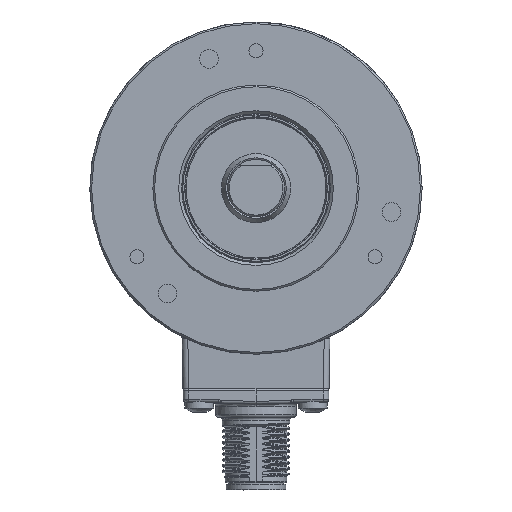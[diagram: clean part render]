
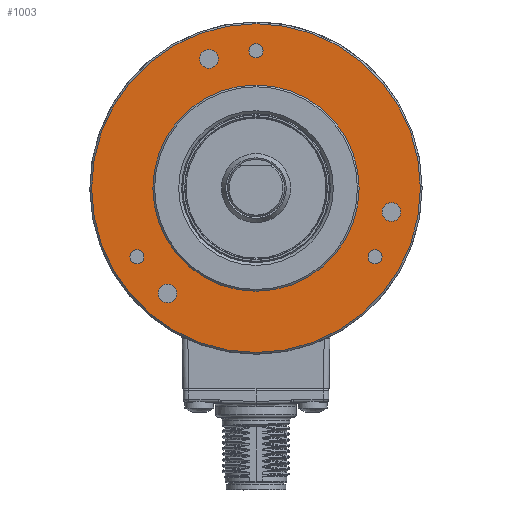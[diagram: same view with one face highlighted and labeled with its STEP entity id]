
A CAD part, left-side view. The second image highlights one B-rep face of the part: STEP entity #1003.
In plain terms, the highlighted planar face has unit normal (-1, 0, 0).
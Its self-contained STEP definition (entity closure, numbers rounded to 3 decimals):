
#1003 = ADVANCED_FACE( '', ( #2522, #2523, #2524, #2525, #2526, #2527, #2528, #2529 ), #2530, .T. );
#2522 = FACE_OUTER_BOUND( '', #8151, .T. );
#2523 = FACE_BOUND( '', #8152, .T. );
#2524 = FACE_BOUND( '', #8153, .T. );
#2525 = FACE_BOUND( '', #8154, .T. );
#2526 = FACE_BOUND( '', #8155, .T. );
#2527 = FACE_BOUND( '', #8156, .T. );
#2528 = FACE_BOUND( '', #8157, .T. );
#2529 = FACE_BOUND( '', #8158, .T. );
#2530 = PLANE( '', #8159 );
#8151 = EDGE_LOOP( '', ( #23909 ) );
#8152 = EDGE_LOOP( '', ( #23910 ) );
#8153 = EDGE_LOOP( '', ( #23911 ) );
#8154 = EDGE_LOOP( '', ( #23912 ) );
#8155 = EDGE_LOOP( '', ( #23913 ) );
#8156 = EDGE_LOOP( '', ( #23914 ) );
#8157 = EDGE_LOOP( '', ( #23915 ) );
#8158 = EDGE_LOOP( '', ( #23916 ) );
#8159 = AXIS2_PLACEMENT_3D( '', #23917, #23918, #23919 );
#23909 = ORIENTED_EDGE( '', *, *, #28124, .T. );
#23910 = ORIENTED_EDGE( '', *, *, #28125, .T. );
#23911 = ORIENTED_EDGE( '', *, *, #27399, .T. );
#23912 = ORIENTED_EDGE( '', *, *, #28063, .T. );
#23913 = ORIENTED_EDGE( '', *, *, #27777, .T. );
#23914 = ORIENTED_EDGE( '', *, *, #27281, .T. );
#23915 = ORIENTED_EDGE( '', *, *, #28126, .T. );
#23916 = ORIENTED_EDGE( '', *, *, #28127, .F. );
#23917 = CARTESIAN_POINT( '', ( 10., -20.222, 11.675 ) );
#23918 = DIRECTION( '', ( -1., 0., 0. ) );
#23919 = DIRECTION( '', ( 0., 0., 1. ) );
#27281 = EDGE_CURVE( '', #29259, #29259, #29260, .T. );
#27399 = EDGE_CURVE( '', #29467, #29467, #29468, .T. );
#27777 = EDGE_CURVE( '', #30122, #30122, #30123, .T. );
#28063 = EDGE_CURVE( '', #30588, #30588, #30589, .T. );
#28124 = EDGE_CURVE( '', #30684, #30684, #30685, .T. );
#28125 = EDGE_CURVE( '', #30686, #30686, #30687, .T. );
#28126 = EDGE_CURVE( '', #30688, #30688, #30689, .T. );
#28127 = EDGE_CURVE( '', #30690, #30690, #30691, .T. );
#29259 = VERTEX_POINT( '', #32138 );
#29260 = CIRCLE( '', #32139, 1.62 );
#29467 = VERTEX_POINT( '', #32661 );
#29468 = CIRCLE( '', #32662, 1.23 );
#30122 = VERTEX_POINT( '', #35040 );
#30123 = CIRCLE( '', #35041, 1.62 );
#30588 = VERTEX_POINT( '', #36906 );
#30589 = CIRCLE( '', #36907, 1.23 );
#30684 = VERTEX_POINT( '', #37211 );
#30685 = CIRCLE( '', #37212, 28.7 );
#30686 = VERTEX_POINT( '', #37213 );
#30687 = CIRCLE( '', #37214, 1.23 );
#30688 = VERTEX_POINT( '', #37215 );
#30689 = CIRCLE( '', #37216, 1.62 );
#30690 = VERTEX_POINT( '', #37217 );
#30691 = CIRCLE( '', #37218, 18. );
#32138 = CARTESIAN_POINT( '', ( 10., 14.024, -17.575 ) );
#32139 = AXIS2_PLACEMENT_3D( '', #42918, #42919, #42920 );
#32661 = CARTESIAN_POINT( '', ( 10., -21.85, -11.385 ) );
#32662 = AXIS2_PLACEMENT_3D( '', #43063, #43064, #43065 );
#35040 = CARTESIAN_POINT( '', ( 10., 6.805, 23.363 ) );
#35041 = AXIS2_PLACEMENT_3D( '', #43421, #43422, #43423 );
#36906 = CARTESIAN_POINT( '', ( 10., -1.065, 24.615 ) );
#36907 = AXIS2_PLACEMENT_3D( '', #43590, #43591, #43592 );
#37211 = CARTESIAN_POINT( '', ( 10., -24.855, 14.35 ) );
#37212 = AXIS2_PLACEMENT_3D( '', #43650, #43651, #43652 );
#37213 = CARTESIAN_POINT( '', ( 10., 19.719, -11.385 ) );
#37214 = AXIS2_PLACEMENT_3D( '', #43653, #43654, #43655 );
#37215 = CARTESIAN_POINT( '', ( 10., -25.038, -3.358 ) );
#37216 = AXIS2_PLACEMENT_3D( '', #43656, #43657, #43658 );
#37217 = CARTESIAN_POINT( '', ( 10., -15.588, 9. ) );
#37218 = AXIS2_PLACEMENT_3D( '', #43659, #43660, #43661 );
#42918 = CARTESIAN_POINT( '', ( 10., 15.427, -18.385 ) );
#42919 = DIRECTION( '', ( 1., 0., 0. ) );
#42920 = DIRECTION( '', ( 0., -0.866, 0.5 ) );
#43063 = CARTESIAN_POINT( '', ( 10., -20.785, -12. ) );
#43064 = DIRECTION( '', ( 1., 0., 0. ) );
#43065 = DIRECTION( '', ( 0., -0.866, 0.5 ) );
#43421 = CARTESIAN_POINT( '', ( 10., 8.208, 22.553 ) );
#43422 = DIRECTION( '', ( 1., 0., 0. ) );
#43423 = DIRECTION( '', ( 0., -0.866, 0.5 ) );
#43590 = CARTESIAN_POINT( '', ( 10., 0., 24. ) );
#43591 = DIRECTION( '', ( 1., 0., 0. ) );
#43592 = DIRECTION( '', ( 0., -0.866, 0.5 ) );
#43650 = CARTESIAN_POINT( '', ( 10., 0., 0. ) );
#43651 = DIRECTION( '', ( -1., 0., 0. ) );
#43652 = DIRECTION( '', ( 0., -0.866, 0.5 ) );
#43653 = CARTESIAN_POINT( '', ( 10., 20.785, -12. ) );
#43654 = DIRECTION( '', ( 1., 0., 0. ) );
#43655 = DIRECTION( '', ( 0., -0.866, 0.5 ) );
#43656 = CARTESIAN_POINT( '', ( 10., -23.635, -4.168 ) );
#43657 = DIRECTION( '', ( 1., 0., 0. ) );
#43658 = DIRECTION( '', ( 0., -0.866, 0.5 ) );
#43659 = CARTESIAN_POINT( '', ( 10., 0., 0. ) );
#43660 = DIRECTION( '', ( -1., 0., 0. ) );
#43661 = DIRECTION( '', ( 0., -0.866, 0.5 ) );
